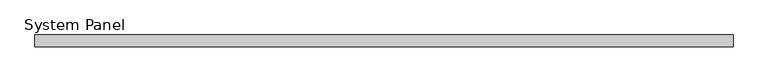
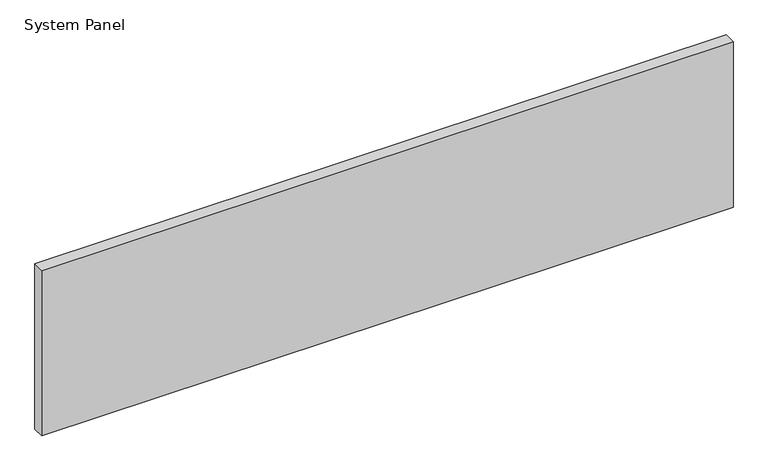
"""IFC4 building model written with IfcOpenShell, lengths in millimetres: plate geometry, System Panel : Glazed - ACMP (AL-1)."""

from ifc_helpers import new_model, si_unit, origin, origin_with_axes, place, context, project, spatial, polyline, outline, extrude, source, transform, mapped, element, save


def system_panel_34eb0aad(model_context):
    return source(origin(), model_context, "Body", "SweptSolid", [
        extrude(outline(polyline([(755.65, 0.0), (-755.65, 0.0), (-755.65, 25.4), (755.65, 25.4), (755.65, 0.0)])), origin_with_axes(), (0.0, 0.0, 1.0), 382.2704451),
    ])


if __name__ == "__main__":
    model = new_model("IFC4")
    model_context = context("Model", 3, world=origin())
    ifc_project = project(units=[si_unit("LENGTHUNIT", "METRE", prefix="MILLI")], contexts=[model_context])
    site = spatial("IfcSite", under=ifc_project)
    building = spatial("IfcBuilding", under=site)
    placement = place(None, origin())
    system_panel_shape = system_panel_34eb0aad(model_context)
    element("IfcPlate", 1, ObjectType="System Panel : Glazed - ACMP (AL-1)", at=placement, inside=building, context=model_context, shape_type="MappedRepresentation", body=[
        mapped(system_panel_shape, transform((0.0, 0.0, 0.0), x_axis=(1.0, 0.0, 0.0), y_axis=(0.0, 1.0, 0.0), z_axis=(0.0, 0.0, 1.0))),
    ])
    save(model, "model.ifc")
